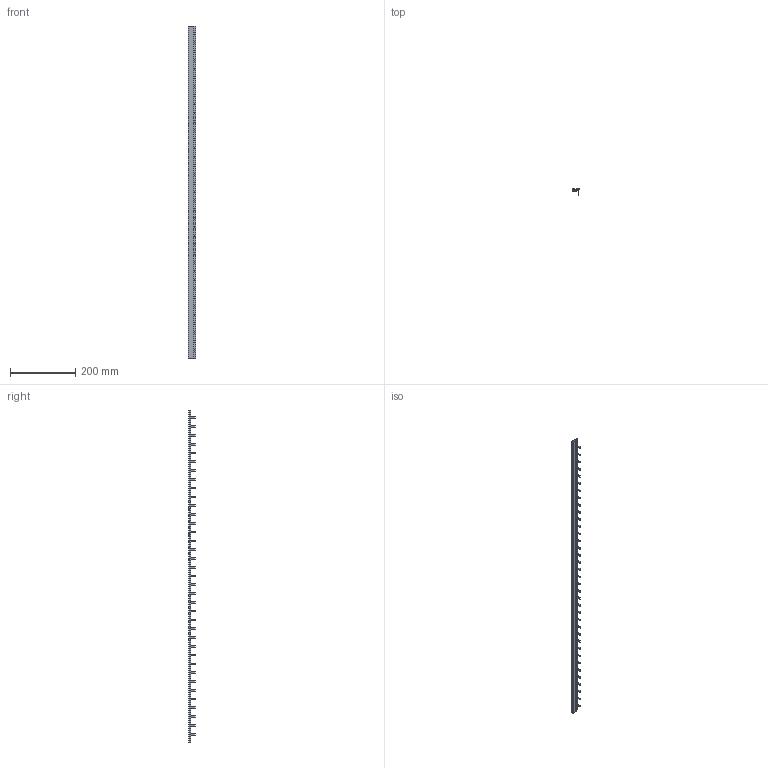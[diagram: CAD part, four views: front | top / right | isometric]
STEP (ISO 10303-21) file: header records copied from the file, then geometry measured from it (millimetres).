
FILE_DESCRIPTION (( 'STEP AP214' ), '1' );
FILE_NAME ('S1L-27-1000-25.step', '2011-08-12T10:27:07', ( 'Radek Veselý' ), ( 'Siemens and Partners' ), 'SwSTEP 2.0', 'SolidWorks 2006303', '' );
FILE_SCHEMA (( 'AUTOMOTIVE_DESIGN' ));
Length unit declared in the file: millimetre
Products named in the file (1): S1L-27-1000-25
Bounding box: 23.01 x 19 x 1020 mm (x, y, z)
Volume: 81804.6 mm3; surface area: 132921.4 mm2
Topology: 2 solids, 2 shells, 395 faces, 1173 edges, 782 vertices
Faces by surface type: plane 239, cylinder 156
Entity records: 17636 total; most frequent: CARTESIAN_POINT 2351, ORIENTED_EDGE 2346, DIRECTION 2277, EDGE_CURVE 1173, LINE 861, VECTOR 861, VERTEX_POINT 782, AXIS2_PLACEMENT_3D 708
